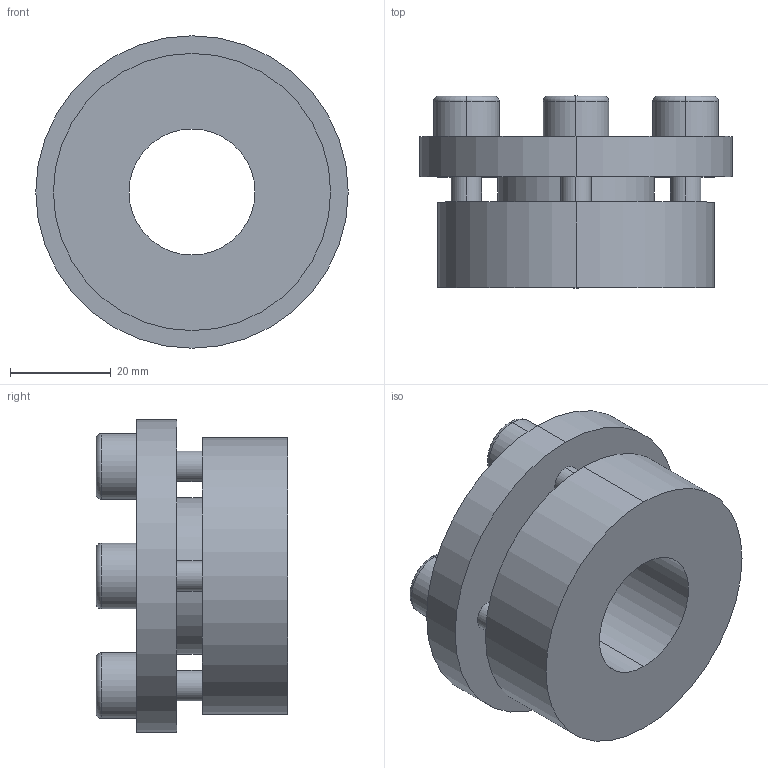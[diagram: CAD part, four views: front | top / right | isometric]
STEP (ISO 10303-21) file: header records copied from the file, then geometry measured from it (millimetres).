
FILE_DESCRIPTION (( 'STEP AP203' ), '1' );
FILE_NAME ('PL-H4 25-55.STEP', '2021-10-23T01:18:53', ( '' ), ( '' ), 'SwSTEP 2.0', 'SolidWorks 2018', '' );
FILE_SCHEMA (( 'CONFIG_CONTROL_DESIGN' ));
Length unit declared in the file: millimetre
Products named in the file (1): PL-H4 25-55
Bounding box: 62 x 38 x 62 mm (x, y, z)
Volume: 57869.5 mm3; surface area: 17355.6 mm2
Topology: 1 solids, 1 shells, 68 faces, 160 edges, 104 vertices
Faces by surface type: plane 36, cylinder 24, torus 8
Entity records: 2061 total; most frequent: DIRECTION 362, CARTESIAN_POINT 333, ORIENTED_EDGE 320, EDGE_CURVE 160, AXIS2_PLACEMENT_3D 133, VERTEX_POINT 104, VECTOR 96, LINE 96
